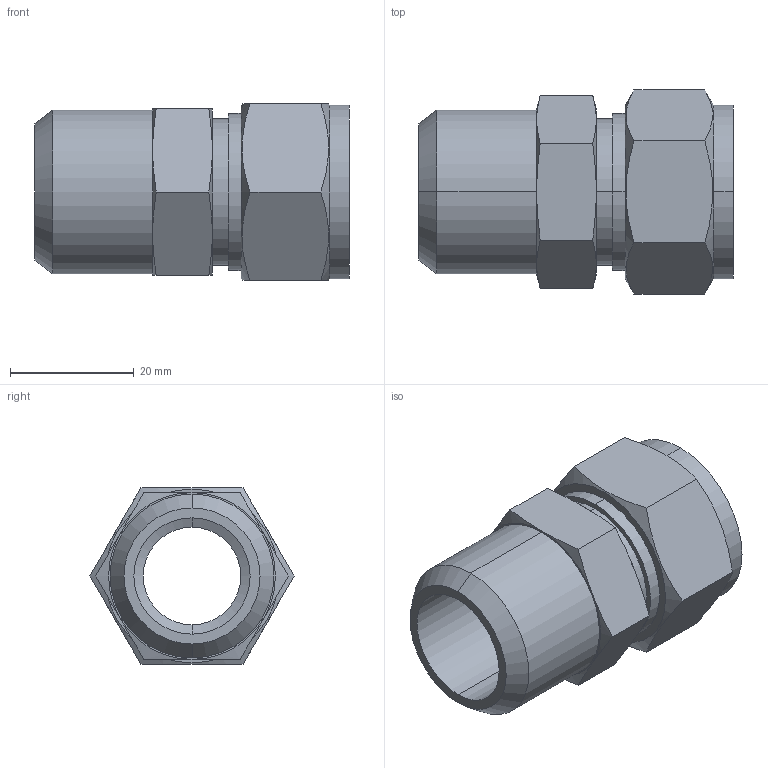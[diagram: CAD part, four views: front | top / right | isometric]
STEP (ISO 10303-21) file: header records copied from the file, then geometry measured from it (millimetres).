
FILE_DESCRIPTION (( 'STEP AP203' ), '1' );
FILE_NAME ('DCB12-12 SS.STEP', '2009-09-08T04:47:45', ( ' ' ), ( '' ), 'SwSTEP 2.0', 'SolidWorks 2008', '' );
FILE_SCHEMA (( 'CONFIG_CONTROL_DESIGN' ));
Length unit declared in the file: millimetre
Products named in the file (1): DCB12-12 SS
Bounding box: 50.9 x 33 x 28.58 mm (x, y, z)
Volume: 16969 mm3; surface area: 8610.2 mm2
Topology: 1 solids, 1 shells, 53 faces, 118 edges, 72 vertices
Faces by surface type: cone 20, plane 19, cylinder 14
Entity records: 1713 total; most frequent: CARTESIAN_POINT 500, ORIENTED_EDGE 236, DIRECTION 230, EDGE_CURVE 118, AXIS2_PLACEMENT_3D 98, VERTEX_POINT 72, EDGE_LOOP 60, ADVANCED_FACE 53
